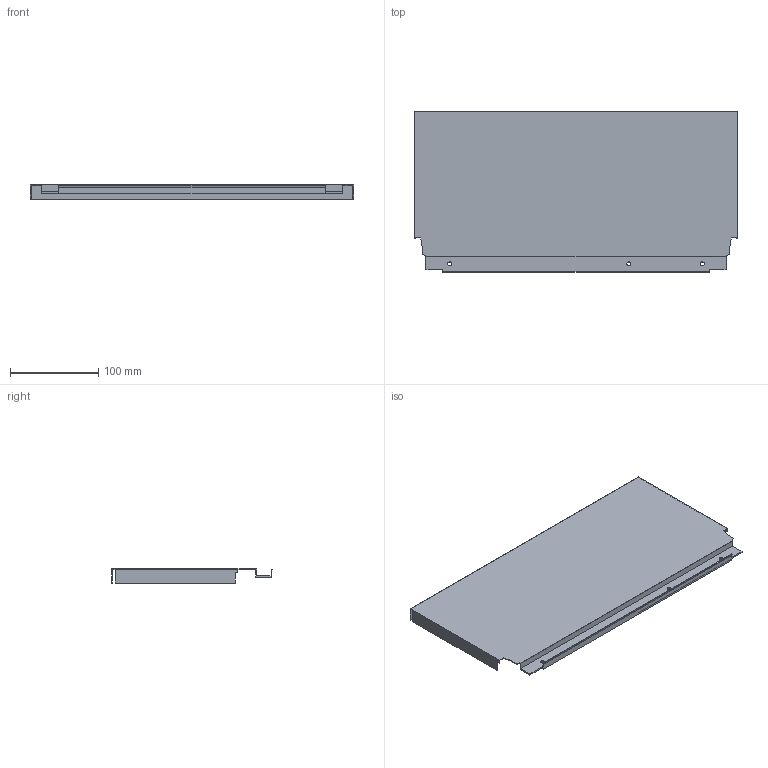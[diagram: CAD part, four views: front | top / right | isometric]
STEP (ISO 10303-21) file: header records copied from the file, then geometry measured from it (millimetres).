
FILE_DESCRIPTION (( 'STEP AP214' ), '1' );
FILE_NAME ('_DWD_XP Stahlrückwand_H182_KAB450_S16.step', '2010-07-08T12:57:32', ( 'grass' ), ( '' ), 'SwSTEP 2.0', 'SolidWorks 2010', '' );
FILE_SCHEMA (( 'AUTOMOTIVE_DESIGN' ));
Length unit declared in the file: millimetre
Products named in the file (1): _DWD_XP Stahlrückwand_H182_KAB450_S16
Bounding box: 367 x 182.49 x 16 mm (x, y, z)
Volume: 69668.3 mm3; surface area: 162270.6 mm2
Topology: 1 solids, 1 shells, 46 faces, 132 edges, 88 vertices
Faces by surface type: plane 40, cylinder 6
Entity records: 1534 total; most frequent: CARTESIAN_POINT 267, ORIENTED_EDGE 264, DIRECTION 238, EDGE_CURVE 132, VECTOR 120, LINE 120, VERTEX_POINT 88, AXIS2_PLACEMENT_3D 59
